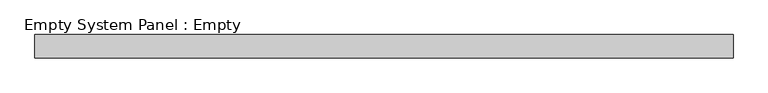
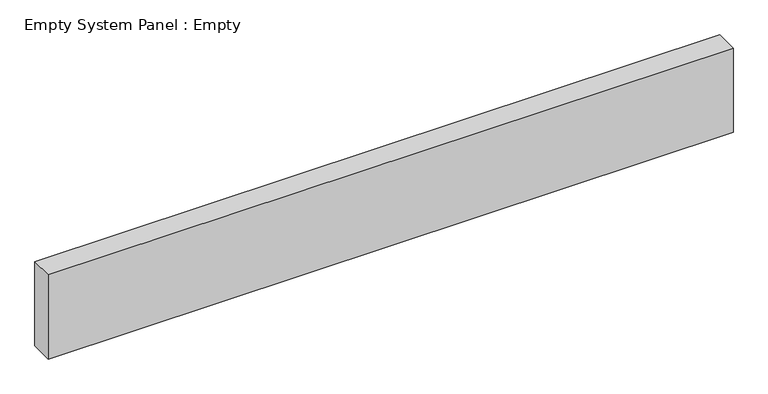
"""IFC4 building model written with IfcOpenShell, lengths in millimetres: plate geometry, Empty System Panel : Empty."""

import ifcopenshell
import ifcopenshell.guid

model = None  # the IFC model being written
_history = None  # IfcOwnerHistory: only IFC2X3 demands one
_inside = {}  # id of a spatial element -> (the spatial element, [elements in it])
_under = {}  # id of a project, library or spatial element -> (it, [spatial elements below it])
_declared = {}  # id of a project -> (the project, [libraries it declares])
_typed = {}  # id of a type object -> (the type object, [elements of that type])
_made_of = {}  # id of a material, layer set ... -> (it, [elements and type objects made of it])


def new_model(schema):
    """Start an empty IFC model of exactly this schema.

    Asked for "IFC4X3", IfcOpenShell would pick the latest addendum, in which some entities
    have other attributes; the version numbers below select the first issue.
    IFC2X3 requires an IfcOwnerHistory on every rooted entity: one is made here for all.
    """
    global model, _history
    if schema == "IFC4X3":
        model = ifcopenshell.file(schema_version=(4, 3, 0, 0))
    else:
        model = ifcopenshell.file(schema=schema)
    _inside.clear()
    _under.clear()
    _declared.clear()
    _typed.clear()
    _made_of.clear()
    _history = None
    if model.schema == "IFC2X3":
        org = make("IfcOrganization", Name="unknown")
        user = make(
            "IfcPersonAndOrganization",
            ThePerson=make("IfcPerson", FamilyName="unknown"),
            TheOrganization=org,
        )
        app = make(
            "IfcApplication",
            ApplicationDeveloper=org,
            Version="unknown",
            ApplicationFullName="unknown",
            ApplicationIdentifier="unknown",
        )
        _history = make(
            "IfcOwnerHistory",
            OwningUser=user,
            OwningApplication=app,
            ChangeAction="ADDED",
            CreationDate=0,
        )
    return model


def make(cls, **values):
    """One entity of the class cls with the attributes given. An attribute that is None is left unset."""
    return model.create_entity(
        cls, **{name: value for name, value in values.items() if value is not None}
    )


def rooted(cls, **values):
    """An entity with a GlobalId (a new one), such as an element, a storey or a relation."""
    return make(cls, GlobalId=ifcopenshell.guid.new(), OwnerHistory=_history, **values)


def si_unit(unit_type, name, prefix=None):
    """IfcSIUnit, for example si_unit("LENGTHUNIT", "METRE", prefix="MILLI")."""
    return make("IfcSIUnit", UnitType=unit_type, Prefix=prefix, Name=name)


def assignment(units):
    """IfcUnitAssignment: the units of a project."""
    return None if units is None else make("IfcUnitAssignment", Units=units)


def point(xyz):
    """IfcCartesianPoint."""
    return None if xyz is None else make("IfcCartesianPoint", Coordinates=xyz)


def direction(xyz):
    """IfcDirection."""
    return None if xyz is None else make("IfcDirection", DirectionRatios=xyz)


def frame(location, z_axis=None, x_axis=None):
    """IfcAxis2Placement3D, a coordinate frame: its origin and axes. An axis left out is left unset."""
    return make(
        "IfcAxis2Placement3D",
        Location=point(location),
        Axis=direction(z_axis),
        RefDirection=direction(x_axis),
    )


def origin():
    """The frame at (0, 0, 0) with its axes left unset."""
    return frame((0.0, 0.0, 0.0))


def origin_with_axes():
    """The frame at (0, 0, 0) with the z axis (0, 0, 1) and the x axis (1, 0, 0) written out."""
    return frame((0.0, 0.0, 0.0), z_axis=(0.0, 0.0, 1.0), x_axis=(1.0, 0.0, 0.0))


def place(relative_to, where):
    """IfcLocalPlacement: puts the frame where relative to a parent placement (None: the world)."""
    return make(
        "IfcLocalPlacement", PlacementRelTo=relative_to, RelativePlacement=where
    )


def context(
    kind, dimensions, precision=None, world=None, true_north=None, identifier=None
):
    """IfcGeometricRepresentationContext, for example the 3D "Model" context."""
    return make(
        "IfcGeometricRepresentationContext",
        ContextIdentifier=identifier,
        ContextType=kind,
        CoordinateSpaceDimension=dimensions,
        Precision=precision,
        WorldCoordinateSystem=world,
        TrueNorth=true_north,
    )


def project(units=None, contexts=None):
    """IfcProject with its units and contexts."""
    return rooted(
        "IfcProject",
        Name="project",
        RepresentationContexts=contexts,
        UnitsInContext=assignment(units),
    )


def spatial(cls, under=None, at=None, **own):
    """A site, building, storey or space (cls), placed at a placement, below another one or the project."""
    s = rooted(cls, ObjectPlacement=at, **own)
    if under is not None:
        _under.setdefault(under.id(), (under, []))[1].append(s)
    return s


def polyline(points):
    """IfcPolyline through the points."""
    return make("IfcPolyline", Points=[point(p) for p in points])


def outline(outer, holes=None, kind="AREA"):
    """IfcArbitraryClosedProfileDef: a profile drawn as a closed curve; with holes, ...WithVoids."""
    if holes is None:
        return make("IfcArbitraryClosedProfileDef", ProfileType=kind, OuterCurve=outer)
    return make(
        "IfcArbitraryProfileDefWithVoids",
        ProfileType=kind,
        OuterCurve=outer,
        InnerCurves=holes,
    )


def extrude(swept, where, along, depth):
    """IfcExtrudedAreaSolid: the profile swept, set in the frame where, extruded along a direction by depth."""
    return make(
        "IfcExtrudedAreaSolid",
        SweptArea=swept,
        Position=where,
        ExtrudedDirection=direction(along),
        Depth=depth,
    )


def shape(context_of_items, identifier, shape_type, items):
    """IfcShapeRepresentation: the items that make up one representation, for example the "Body"."""
    return make(
        "IfcShapeRepresentation",
        ContextOfItems=context_of_items,
        RepresentationIdentifier=identifier,
        RepresentationType=shape_type,
        Items=items,
    )


def source(mapping_origin, context_of_items, identifier, shape_type, items):
    """IfcRepresentationMap: a shape defined once, which mapped items show again and again."""
    return make(
        "IfcRepresentationMap",
        MappingOrigin=mapping_origin,
        MappedRepresentation=shape(context_of_items, identifier, shape_type, items),
    )


def transform(
    local_origin,
    x_axis=None,
    y_axis=None,
    z_axis=None,
    scale=None,
    scale2=None,
    scale3=None,
    uniform=True,
):
    """IfcCartesianTransformationOperator3D, or its non-uniform kind. x_axis, y_axis, z_axis: its Axis1, 2, 3."""
    if uniform:
        return make(
            "IfcCartesianTransformationOperator3D",
            Axis1=direction(x_axis),
            Axis2=direction(y_axis),
            LocalOrigin=point(local_origin),
            Scale=scale,
            Axis3=direction(z_axis),
        )
    return make(
        "IfcCartesianTransformationOperator3DnonUniform",
        Axis1=direction(x_axis),
        Axis2=direction(y_axis),
        LocalOrigin=point(local_origin),
        Scale=scale,
        Axis3=direction(z_axis),
        Scale2=scale2,
        Scale3=scale3,
    )


def mapped(mapping_source, mapping_target):
    """IfcMappedItem: shows the shape of a source again, moved by a transform."""
    return make(
        "IfcMappedItem", MappingSource=mapping_source, MappingTarget=mapping_target
    )


def made_of(thing, what):
    """Note that an element or type object is made of a material, layer set ...; save() writes the relation."""
    if what is not None:
        _made_of.setdefault(what.id(), (what, []))[1].append(thing)
    return thing


def element(
    cls,
    number,
    at=None,
    inside=None,
    cuts=None,
    type_object=None,
    material=None,
    context=None,
    identifier="Body",
    shape_type=None,
    held_by="IfcProductDefinitionShape",
    body=None,
    shapes=None,
    **own,
):
    """One element of the class cls, such as IfcWall. Its Tag is "e" and its number.

    at: its placement. inside: the storey or other place that contains it. cuts: it is an
    opening in that element (IfcRelVoidsElement). A single representation is given by context,
    identifier, shape_type and body (its items); several are given by shapes. held_by: the class
    of the entity that holds the representations. save() writes the other relations.
    """
    e = rooted(cls, Tag="e%d" % number, ObjectPlacement=at, **own)
    if body is not None:
        shapes = [shape(context, identifier, shape_type, body)]
    if shapes is not None:
        e.Representation = make(held_by, Representations=shapes)
    if inside is not None:
        _inside.setdefault(inside.id(), (inside, []))[1].append(e)
    if cuts is not None:
        rooted(
            "IfcRelVoidsElement", RelatingBuildingElement=cuts, RelatedOpeningElement=e
        )
    if type_object is not None:
        _typed.setdefault(type_object.id(), (type_object, []))[1].append(e)
    return made_of(e, material)


def aggregate(whole, parts):
    """IfcRelAggregates: a whole, such as a stair, and the parts it consists of."""
    return rooted("IfcRelAggregates", RelatingObject=whole, RelatedObjects=parts)


def save(model, path):
    """Write the relations noted so far, then the file.

    IfcRelAggregates (storeys below a building ...), IfcRelContainedInSpatialStructure (elements
    in a storey), IfcRelDefinesByType, IfcRelAssociatesMaterial and IfcRelDeclares: one each for
    every whole, place, type object, material and project.
    """
    for whole, parts in _under.values():
        aggregate(whole, parts)
    for where, things in _inside.values():
        rooted(
            "IfcRelContainedInSpatialStructure",
            RelatedElements=things,
            RelatingStructure=where,
        )
    for kind, things in _typed.values():
        rooted("IfcRelDefinesByType", RelatedObjects=things, RelatingType=kind)
    for what, things in _made_of.values():
        rooted("IfcRelAssociatesMaterial", RelatedObjects=things, RelatingMaterial=what)
    for by, libraries in _declared.values():
        rooted("IfcRelDeclares", RelatingContext=by, RelatedDefinitions=libraries)
    model.write(path)


def empty_system_panel_empty_f2a78e4d(model_context):
    return source(origin(), model_context, "Body", "SweptSolid", [
        extrude(outline(polyline([(1500.0, -50.0), (-1500.0, -50.0), (-1500.0, 50.0), (1500.0, 50.0), (1500.0, -50.0)])), origin_with_axes(), (0.0, 0.0, 1.0), 390.0),
    ])


if __name__ == "__main__":
    model = new_model("IFC4")
    model_context = context("Model", 3, world=origin())
    ifc_project = project(units=[si_unit("LENGTHUNIT", "METRE", prefix="MILLI")], contexts=[model_context])
    site = spatial("IfcSite", under=ifc_project)
    building = spatial("IfcBuilding", under=site)
    placement = place(None, origin())
    empty_system_panel_empty_shape = empty_system_panel_empty_f2a78e4d(model_context)
    element("IfcPlate", 1, ObjectType="Empty System Panel : Empty", at=placement, inside=building, context=model_context, shape_type="MappedRepresentation", body=[
        mapped(empty_system_panel_empty_shape, transform((0.0, 0.0, 0.0), x_axis=(1.0, 0.0, 0.0), y_axis=(0.0, 1.0, 0.0), z_axis=(0.0, 0.0, 1.0))),
    ])
    save(model, "model.ifc")
